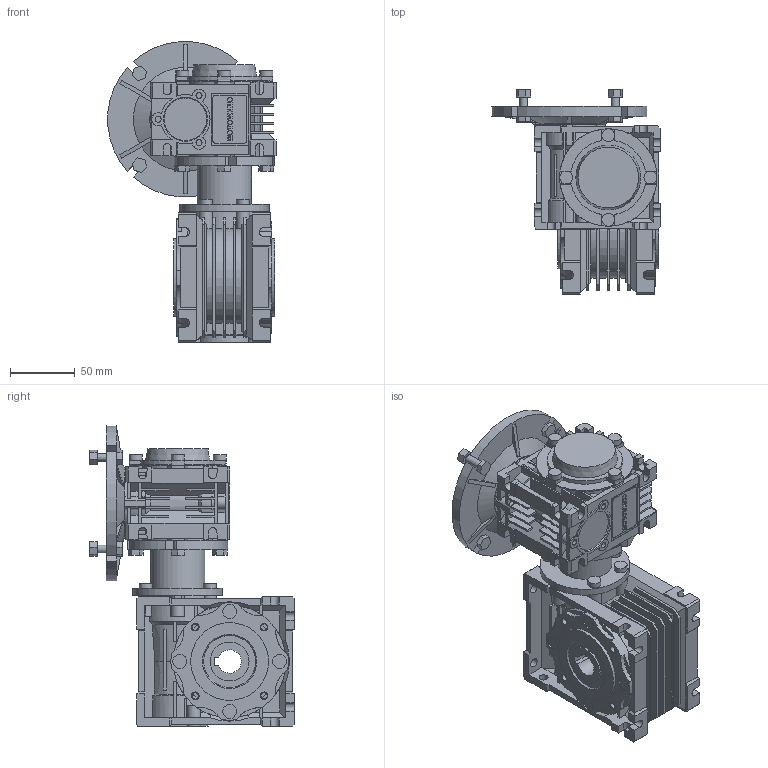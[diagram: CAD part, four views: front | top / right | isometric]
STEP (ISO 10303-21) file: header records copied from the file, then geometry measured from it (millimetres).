
FILE_DESCRIPTION(/* description */ ('STEP AP214'),/* implementation_level */ '2;1');
FILE_NAME(/* name */ 'NMRV-NMRV030-040100 (10x10)81118NO11NO00NO---(--------)',/* time_stamp */ '2024-10-22T08:56:28+02:00',/* author */ ('License CC BY-ND 4.0'),/* organization */ ('CADENAS'),/* preprocessor_version */ 'ST-DEVELOPER v19.3',/* originating_system */ 'PARTsolutions',/* authorisation */ ' ');
FILE_SCHEMA (('AUTOMOTIVE_DESIGN {1 0 10303 214 3 1 1}'));
Length unit declared in the file: millimetre
Products named in the file (13): NMRV-NMRV030-040100 (10x10)81118NO11NO00NO---(--------); 030-040100 (10x10)8114118No11No00NO---(--------)-d; 030-04050 (5x10)81118No11No00NO---d1; 030-04050 (5x10)81118No11No00T0561-d1; Gear unit 40; 040-18 (78)alc-n; VB 040-11 (11); Gear unit 30; 030-14 (63)alc-n; FT 030-040; Hollow shaft 30; VB 030-09 (9); 30-56 B5
Assembly tree (13 placements, depth 2):
  NMRV-NMRV030-040100 (10x10)81118NO11NO00NO---(--------)
    030-040100 (10x10)8114118No11No00NO---(--------)-d
    030-04050 (5x10)81118No11No00NO---d1
    030-04050 (5x10)81118No11No00T0561-d1  x2
    Gear unit 40
    040-18 (78)alc-n
    VB 040-11 (11)
    Gear unit 30
    030-14 (63)alc-n
    FT 030-040
    Hollow shaft 30
    VB 030-09 (9)
    30-56 B5
Bounding box: 129.8 x 158 x 231.8 mm (x, y, z)
Volume: 1135214.8 mm3; surface area: 296378.6 mm2
Topology: 9 solids, 16 shells, 1625 faces, 4373 edges, 2849 vertices
Faces by surface type: plane 1209, cylinder 330, cone 84, torus 2
Full cylindrical faces by diameter (mm): 3.545 x3, 4.65 x3, 4.917 x16, 5.55 x3, 6 x8, 7 x6, 10 x12, 10.8 x4, 16 x1, 19 x2, 23 x2, 24.8 x2, 28 x1, 30 x4, 36 x1, 37 x1, 38 x1, 40 x1, 42 x1, 47 x1, 55 x3, 60 x2, 69 x1, 75 x2, 78.5 x1, 80 x1
Entity records: 61271 total; most frequent: CARTESIAN_POINT 9335, ORIENTED_EDGE 8436, DIRECTION 8258, EDGE_CURVE 4218, LINE 3064, VECTOR 3064, VERTEX_POINT 2824, AXIS2_PLACEMENT_3D 2597
